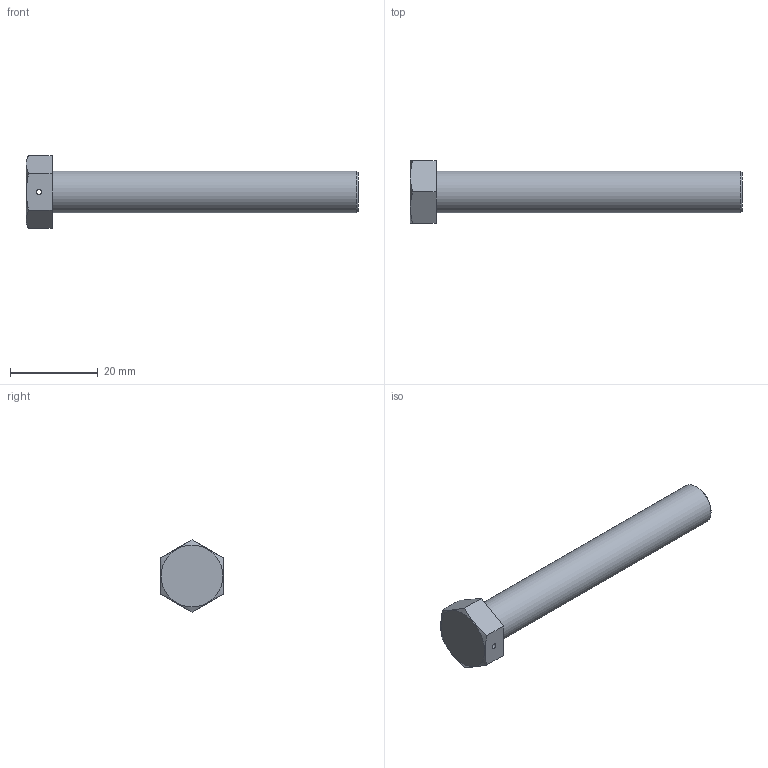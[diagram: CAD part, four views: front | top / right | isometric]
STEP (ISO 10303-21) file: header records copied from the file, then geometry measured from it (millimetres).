
FILE_DESCRIPTION(/* description */ (''),/* implementation_level */ '2;1');
FILE_NAME(/* name */ 'E:/hidden/Engineering Projects/Leslie Controls SuperTyfon/CAD/Components/24503 Cap Screw, Horn.step',/* time_stamp */ '2022-08-18T19:35:24+10:00',/* author */ (''),/* organization */ (''),/* preprocessor_version */ 'ST-DEVELOPER v19',/* originating_system */ 'Autodesk Translation Framework v11.7.0.108',/* authorisation */ '');
FILE_SCHEMA (('AUTOMOTIVE_DESIGN { 1 0 10303 214 3 1 1 }'));
Length unit declared in the file: inch
Products named in the file (1): 24503 Cap Screw, Horn
Bounding box: 75.8 x 14.29 x 16.5 mm (x, y, z)
Volume: 6008.1 mm3; surface area: 2773.8 mm2
Topology: 1 solids, 1 shells, 13 faces, 29 edges, 19 vertices
Faces by surface type: plane 9, cylinder 2, cone 2
Full cylindrical faces by diameter (mm): 1.191 x1, 9.525 x1
Entity records: 395 total; most frequent: CARTESIAN_POINT 74, ORIENTED_EDGE 58, DIRECTION 58, EDGE_CURVE 29, AXIS2_PLACEMENT_3D 21, VERTEX_POINT 19, EDGE_LOOP 16, LINE 16
